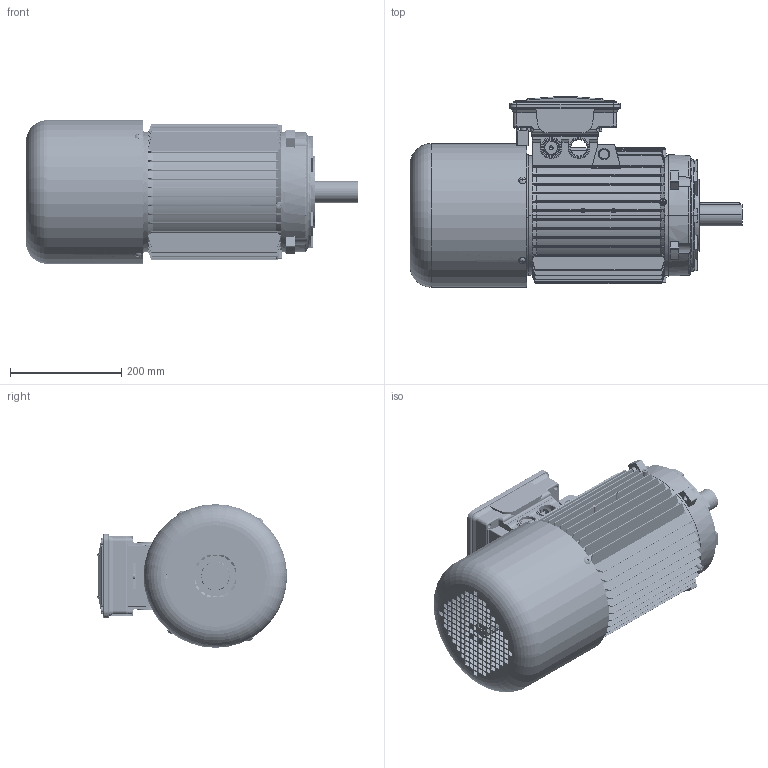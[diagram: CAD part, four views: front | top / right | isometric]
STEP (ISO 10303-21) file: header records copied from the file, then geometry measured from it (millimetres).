
FILE_DESCRIPTION (( 'STEP AP214' ), '1' );
FILE_NAME ('M14JC0010.STEP', '2019-04-13T08:04:29', ( '' ), ( '' ), 'SwSTEP 2.0', 'SolidWorks 2018', '' );
FILE_SCHEMA (( 'AUTOMOTIVE_DESIGN' ));
Length unit declared in the file: millimetre
Products named in the file (17): Guarnizione Basetta BA 132 - DGBU0202; Vite Autofilettante Testa Bombata 4,8x9,5; Pipetta passafilo; Scatola per Morsettiera BA 132 - DGBQ0102; Vite testa rotonda M6; Chiavetta 132; Albero BM 132 M; Scudo Lato Freno P1 BM 132; Scudo a Flangia B14 BA 132 - DGAC0094; Carcassa 132 M B5; Scatola BA 132 - Completa; M14JC0010; Vite M5x20; Coperchio Scatola Morsettiera BA 132 - DGBR0002; Cuffia BM 132; Guarnizione Coperchio Morsettiera Doppia Scatola BA 132 - DGBS0102; Piastra stringi Pipetta BA 132 - DGBA0210 bis
Assembly tree (23 placements, depth 3):
  M14JC0010
    Carcassa 132 M B5
    Scudo a Flangia B14 BA 132 - DGAC0094
    Scudo Lato Freno P1 BM 132
    Albero BM 132 M
    Chiavetta 132
    Vite testa rotonda M6  x4
    Scatola BA 132 - Completa
      Scatola per Morsettiera BA 132 - DGBQ0102
      Pipetta passafilo  x2
      Vite Autofilettante Testa Bombata 4,8x9,5
      Guarnizione Basetta BA 132 - DGBU0202
      Piastra stringi Pipetta BA 132 - DGBA0210 bis
      Guarnizione Coperchio Morsettiera Doppia Scatola BA 132 - DGBS0102
      Coperchio Scatola Morsettiera BA 132 - DGBR0002
      Vite M5x20  x4
    Cuffia BM 132
Bounding box: 596.6 x 341.89 x 258 mm (x, y, z)
Volume: 4205235.4 mm3; surface area: 1751759.9 mm2
Topology: 22 solids, 22 shells, 4114 faces, 11301 edges, 7259 vertices
Faces by surface type: cylinder 1887, plane 1403, cone 382, torus 337, bspline 85, sphere 20
Entity records: 129093 total; most frequent: CARTESIAN_POINT 36606, ORIENTED_EDGE 19342, DIRECTION 18487, EDGE_CURVE 9671, AXIS2_PLACEMENT_3D 6785, VERTEX_POINT 6257, LINE 4917, VECTOR 4917
